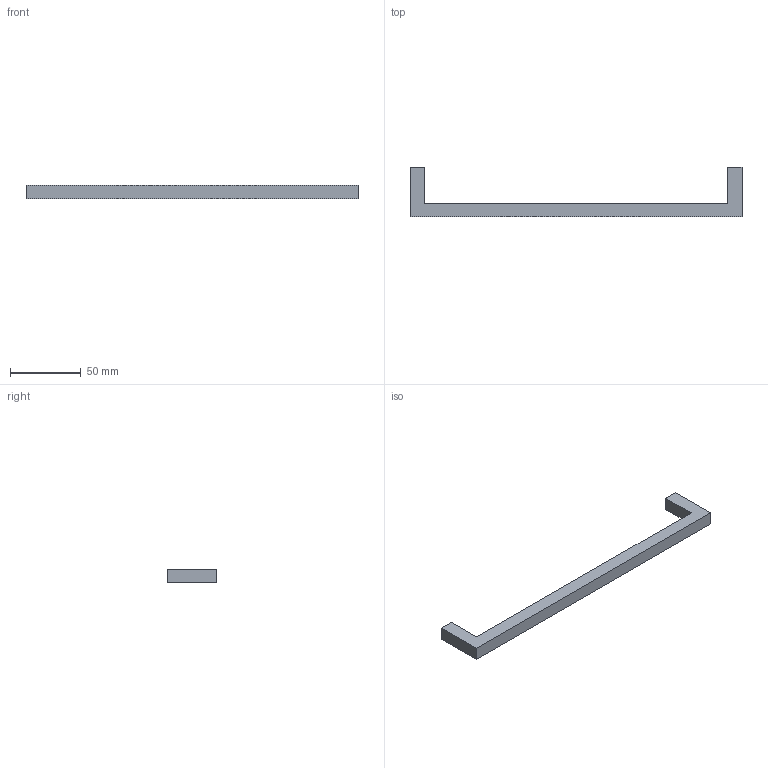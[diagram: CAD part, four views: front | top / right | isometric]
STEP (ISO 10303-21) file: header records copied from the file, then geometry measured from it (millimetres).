
FILE_DESCRIPTION( ( '' ), '1' );
FILE_NAME( 'D:/1.AUTOCAD EXPORT/Group 10/sheet_10_1/9996673.stp', '2013-10-18T08:46:33', ( '' ), ( '' ), ' ', ' ', ' ' );
FILE_SCHEMA( ( 'automotive_design' ) );
Length unit declared in the file: millimetre
Products named in the file (1): 1
Bounding box: 234 x 35 x 9.6 mm (x, y, z)
Volume: 26270.7 mm3; surface area: 11579.2 mm2
Topology: 1 solids, 1 shells, 16 faces, 36 edges, 24 vertices
Faces by surface type: plane 12, cylinder 4
Entity records: 900 total; most frequent: DIRECTION 78, STYLED_ITEM 77, PRESENTATION_STYLE_ASSIGNMENT 77, CARTESIAN_POINT 77, COLOUR_RGB 77, ORIENTED_EDGE 72, EDGE_CURVE 36, CURVE_STYLE 36
